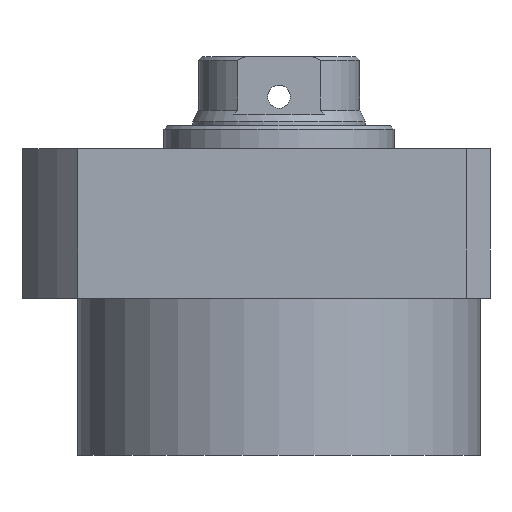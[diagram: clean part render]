
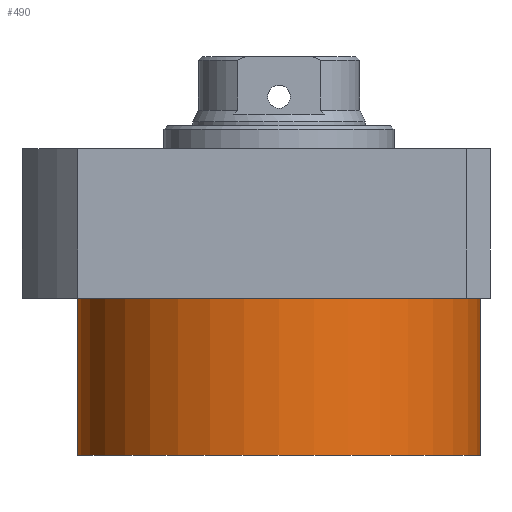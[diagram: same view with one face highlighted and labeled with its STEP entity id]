
A CAD part, front view. The second image highlights one B-rep face of the part: STEP entity #490.
In plain terms, the highlighted cylindrical face has radius 52.5 mm (diameter 105 mm), a partial arc.
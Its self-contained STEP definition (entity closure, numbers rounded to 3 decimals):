
#61 = AXIS2_PLACEMENT_3D ( 'NONE', #667, #544, #1882 ) ;
#70 = CARTESIAN_POINT ( 'NONE',  ( -52.5, 0., -60.5 ) ) ;
#85 = EDGE_CURVE ( 'NONE', #287, #914, #356, .T. ) ;
#89 = DIRECTION ( 'NONE',  ( 0., 0., -1. ) ) ;
#122 = LINE ( 'NONE', #904, #1443 ) ;
#261 = EDGE_CURVE ( 'NONE', #1085, #287, #122, .T. ) ;
#287 = VERTEX_POINT ( 'NONE', #731 ) ;
#337 = ORIENTED_EDGE ( 'NONE', *, *, #85, .T. ) ;
#356 = CIRCLE ( 'NONE', #1458, 52.5 ) ;
#443 = CIRCLE ( 'NONE', #1120, 52.5 ) ;
#490 = ADVANCED_FACE ( 'NONE', ( #1473 ), #969, .T. ) ;
#544 = DIRECTION ( 'NONE',  ( 0., 0., 1. ) ) ;
#647 = DIRECTION ( 'NONE',  ( -1., 0., 0. ) ) ;
#661 = ORIENTED_EDGE ( 'NONE', *, *, #261, .T. ) ;
#667 = CARTESIAN_POINT ( 'NONE',  ( 0., 0., -60.5 ) ) ;
#684 = CARTESIAN_POINT ( 'NONE',  ( 52.5, 0., -60.5 ) ) ;
#731 = CARTESIAN_POINT ( 'NONE',  ( 52.5, 0., -19.5 ) ) ;
#817 = EDGE_LOOP ( 'NONE', ( #1491, #1641, #661, #337 ) ) ;
#840 = CARTESIAN_POINT ( 'NONE',  ( 0., 0., -19.5 ) ) ;
#904 = CARTESIAN_POINT ( 'NONE',  ( 52.5, 0., -60.5 ) ) ;
#914 = VERTEX_POINT ( 'NONE', #956 ) ;
#956 = CARTESIAN_POINT ( 'NONE',  ( -52.5, 0., -19.5 ) ) ;
#969 = CYLINDRICAL_SURFACE ( 'NONE', #61, 52.5 ) ;
#1057 = LINE ( 'NONE', #70, #1389 ) ;
#1076 = CARTESIAN_POINT ( 'NONE',  ( 0., 0., -60.5 ) ) ;
#1085 = VERTEX_POINT ( 'NONE', #684 ) ;
#1120 = AXIS2_PLACEMENT_3D ( 'NONE', #1076, #89, #647 ) ;
#1270 = EDGE_CURVE ( 'NONE', #1085, #1657, #443, .T. ) ;
#1343 = DIRECTION ( 'NONE',  ( 0., 0., -1. ) ) ;
#1389 = VECTOR ( 'NONE', #1858, 1000. ) ;
#1397 = DIRECTION ( 'NONE',  ( 0., 0., 1. ) ) ;
#1443 = VECTOR ( 'NONE', #1397, 1000. ) ;
#1458 = AXIS2_PLACEMENT_3D ( 'NONE', #840, #1343, #2018 ) ;
#1473 = FACE_OUTER_BOUND ( 'NONE', #817, .T. ) ;
#1491 = ORIENTED_EDGE ( 'NONE', *, *, #1941, .F. ) ;
#1604 = CARTESIAN_POINT ( 'NONE',  ( -52.5, 0., -60.5 ) ) ;
#1641 = ORIENTED_EDGE ( 'NONE', *, *, #1270, .F. ) ;
#1657 = VERTEX_POINT ( 'NONE', #1604 ) ;
#1858 = DIRECTION ( 'NONE',  ( 0., 0., 1. ) ) ;
#1882 = DIRECTION ( 'NONE',  ( 1., 0., 0. ) ) ;
#1941 = EDGE_CURVE ( 'NONE', #1657, #914, #1057, .T. ) ;
#2018 = DIRECTION ( 'NONE',  ( 1., 0., 0. ) ) ;
